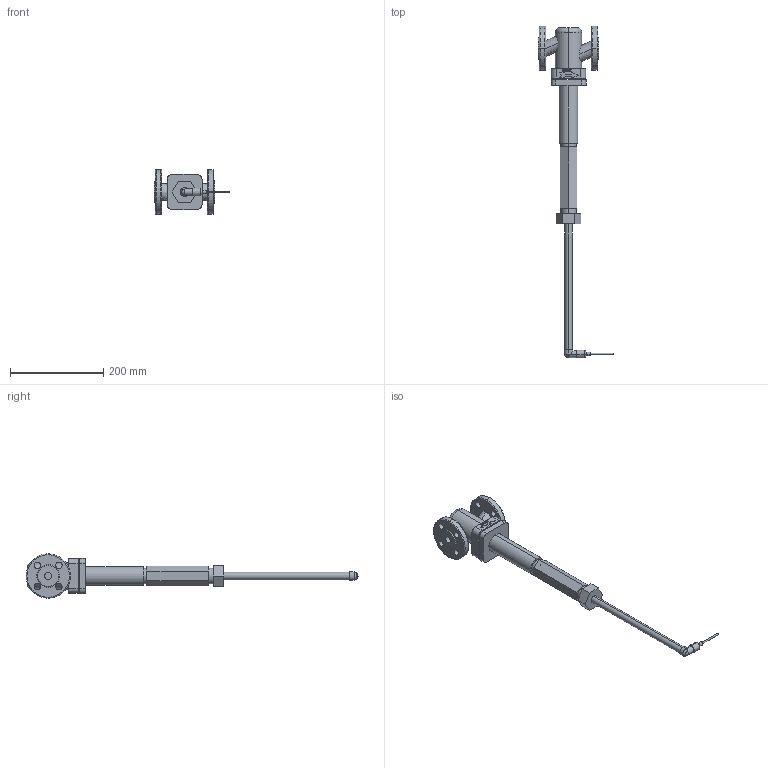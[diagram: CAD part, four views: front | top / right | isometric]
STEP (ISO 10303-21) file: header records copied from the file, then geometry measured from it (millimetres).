
FILE_DESCRIPTION (( 'STEP AP203' ), '1' );
FILE_NAME ('2111_SS_DIN_015_016-040_10619_B1_std_verlst.STEP', '2010-03-09T08:49:13', ( '' ), ( '' ), 'SwSTEP 2.0', 'SolidWorks 2006303', '' );
FILE_SCHEMA (( 'CONFIG_CONTROL_DESIGN' ));
Length unit declared in the file: millimetre
Products named in the file (1): 2111_SS_DIN_015_016-040_10619_B1_std_verlst
Bounding box: 162 x 711 x 95 mm (x, y, z)
Surface area: 143945.7 mm2 (no closed solid volume)
Topology: 0 solids, 10 shells, 131 faces, 407 edges, 297 vertices
Faces by surface type: plane 54, cylinder 52, torus 14, bspline 5, cone 5, sphere 1
Entity records: 5668 total; most frequent: CARTESIAN_POINT 1956, DIRECTION 750, ORIENTED_EDGE 685, EDGE_CURVE 407, VERTEX_POINT 297, AXIS2_PLACEMENT_3D 276, VECTOR 198, LINE 198
